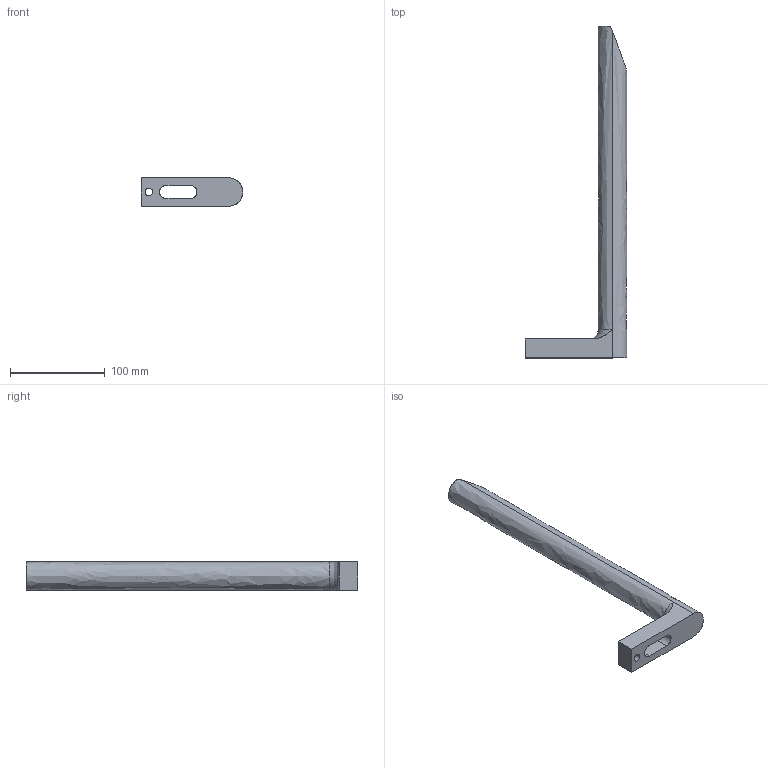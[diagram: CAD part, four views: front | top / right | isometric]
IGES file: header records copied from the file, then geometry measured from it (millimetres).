
Start section: START RECORD GO HERE.
Global section: file name: 702-9.igs; native system: DASSAULT SYSTEMES CATIA V5 R20 - www.3ds.com; preprocessor: CATIA Version 5 Release 20 ; author: Utente; organization: NB04-ASUS; date: 20200410.173231; units: millimetre
Bounding box: 107 x 350 x 30 mm (x, y, z)
Surface area: 43012 mm2 (no closed solid volume)
Topology: 0 solids, 0 shells, 18 faces, 95 edges, 95 vertices
Faces by surface type: revolution 9, extrusion 9
